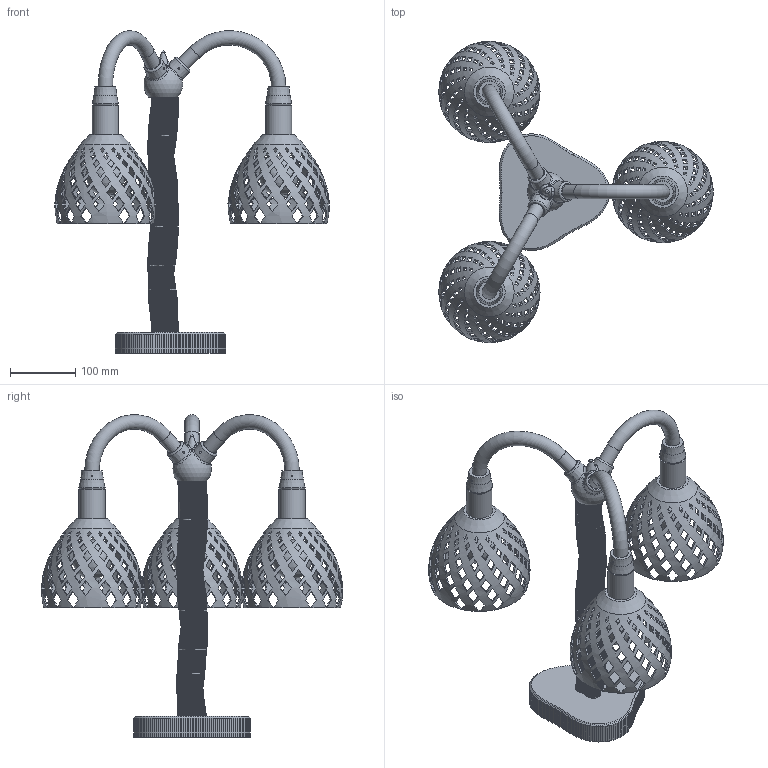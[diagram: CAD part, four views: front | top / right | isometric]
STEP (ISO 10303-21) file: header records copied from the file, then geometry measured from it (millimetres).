
FILE_DESCRIPTION(('Open CASCADE Model'),'2;1');
FILE_NAME('Open CASCADE Shape Model','2026-10-15T22:00:40',('Author'),( 'Open CASCADE'),'Open CASCADE STEP processor 7.9','Open CASCADE 7.9' ,'Unknown');
FILE_SCHEMA(('AUTOMOTIVE_DESIGN { 1 0 10303 214 1 1 1 1 }'));
Length unit declared in the file: millimetre
Products named in the file (24): lampada_tripla_E27; base_corpo; base_fondo; stelo_inferiore; stelo_superiore; spina_0; spina_1; spina_2; mozzo; braccio_0; boccola_0; _portalampada_0; paralume_0; _lampadina_0; braccio_1; boccola_1; _portalampada_1; paralume_1; _lampadina_1; braccio_2; boccola_2; _portalampada_2; paralume_2; _lampadina_2
Assembly tree (23 placements, depth 2):
  lampada_tripla_E27
    base_corpo
    base_fondo
    stelo_inferiore
    stelo_superiore
    spina_0
    spina_1
    spina_2
    mozzo
    braccio_0
    boccola_0
    _portalampada_0
    paralume_0
    _lampadina_0
    braccio_1
    boccola_1
    _portalampada_1
    paralume_1
    _lampadina_1
    braccio_2
    boccola_2
    _portalampada_2
    paralume_2
    _lampadina_2
Bounding box: 420.28 x 461.22 x 493.62 mm (x, y, z)
Volume: 1852497.6 mm3; surface area: 696842.2 mm2
Topology: 23 solids, 23 shells, 2874 faces, 8257 edges, 5421 vertices
Faces by surface type: plane 2380, bspline 379, cylinder 75, cone 19, torus 9, sphere 6, revolution 6
Full cylindrical faces by diameter (mm): 2.6 x15, 3.4 x3, 6.4 x3, 7.5 x1, 10 x3, 10.4 x3, 10.6 x3, 11 x6, 12 x3, 14 x3, 16 x3, 22 x6, 22.4 x6, 38 x1, 40 x3, 40.6 x3
Entity records: 270318 total; most frequent: CARTESIAN_POINT 127429, DIRECTION 18063, ORIENTED_EDGE 16480, PCURVE 16480, DEFINITIONAL_REPRESENTATION 16480, LINE 12316, VECTOR 12316, B_SPLINE_CURVE_WITH_KNOTS 11896
